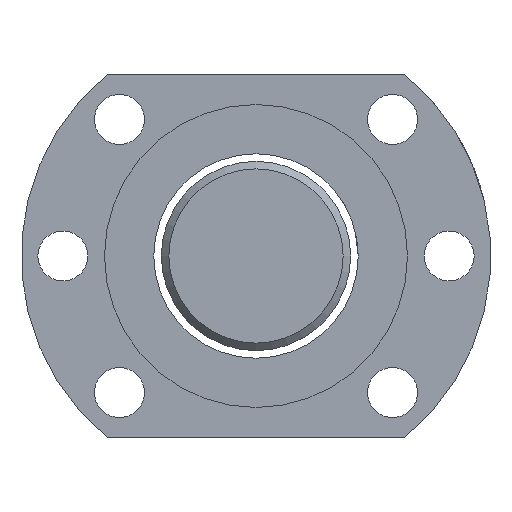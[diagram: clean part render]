
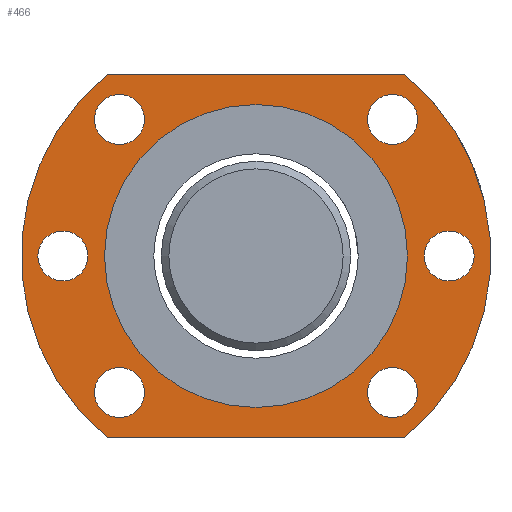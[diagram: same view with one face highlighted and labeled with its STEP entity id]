
A CAD part, left-side view. The second image highlights one B-rep face of the part: STEP entity #466.
In plain terms, the highlighted planar face has unit normal (-1, 0, 0).
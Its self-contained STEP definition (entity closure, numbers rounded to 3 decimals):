
#59=PLANE('',#544);
#76=LINE('',#799,#84);
#79=LINE('',#805,#87);
#84=VECTOR('',#636,1000.);
#87=VECTOR('',#641,1000.);
#128=ORIENTED_EDGE('',*,*,#205,.T.);
#129=ORIENTED_EDGE('',*,*,#209,.T.);
#130=ORIENTED_EDGE('',*,*,#211,.F.);
#131=ORIENTED_EDGE('',*,*,#213,.F.);
#132=ORIENTED_EDGE('',*,*,#215,.F.);
#133=ORIENTED_EDGE('',*,*,#222,.T.);
#134=ORIENTED_EDGE('',*,*,#219,.T.);
#135=ORIENTED_EDGE('',*,*,#190,.T.);
#136=ORIENTED_EDGE('',*,*,#216,.T.);
#137=ORIENTED_EDGE('',*,*,#224,.F.);
#138=ORIENTED_EDGE('',*,*,#207,.T.);
#190=EDGE_CURVE('',#240,#241,#281,.T.);
#205=EDGE_CURVE('',#255,#255,#289,.T.);
#207=EDGE_CURVE('',#257,#257,#291,.T.);
#209=EDGE_CURVE('',#259,#259,#293,.T.);
#211=EDGE_CURVE('',#261,#261,#295,.T.);
#213=EDGE_CURVE('',#263,#263,#297,.T.);
#215=EDGE_CURVE('',#265,#265,#299,.T.);
#216=EDGE_CURVE('',#241,#266,#76,.T.);
#219=EDGE_CURVE('',#268,#240,#79,.T.);
#222=EDGE_CURVE('',#266,#268,#300,.T.);
#224=EDGE_CURVE('',#270,#270,#302,.T.);
#240=VERTEX_POINT('',#711);
#241=VERTEX_POINT('',#712);
#255=VERTEX_POINT('',#772);
#257=VERTEX_POINT('',#777);
#259=VERTEX_POINT('',#782);
#261=VERTEX_POINT('',#787);
#263=VERTEX_POINT('',#792);
#265=VERTEX_POINT('',#797);
#266=VERTEX_POINT('',#800);
#268=VERTEX_POINT('',#806);
#270=VERTEX_POINT('',#815);
#281=CIRCLE('',#512,31.);
#289=CIRCLE('',#523,3.3);
#291=CIRCLE('',#526,3.3);
#293=CIRCLE('',#529,3.3);
#295=CIRCLE('',#532,3.3);
#297=CIRCLE('',#535,3.3);
#299=CIRCLE('',#538,3.3);
#300=CIRCLE('',#542,31.);
#302=CIRCLE('',#545,20.);
#334=EDGE_LOOP('',(#128));
#335=EDGE_LOOP('',(#129));
#336=EDGE_LOOP('',(#130));
#337=EDGE_LOOP('',(#131));
#338=EDGE_LOOP('',(#132));
#339=EDGE_LOOP('',(#133,#134,#135,#136));
#340=EDGE_LOOP('',(#137));
#341=EDGE_LOOP('',(#138));
#397=FACE_BOUND('',#334,.T.);
#398=FACE_BOUND('',#335,.T.);
#399=FACE_BOUND('',#336,.T.);
#400=FACE_BOUND('',#337,.T.);
#401=FACE_BOUND('',#338,.T.);
#402=FACE_BOUND('',#339,.T.);
#403=FACE_BOUND('',#340,.T.);
#404=FACE_BOUND('',#341,.T.);
#466=ADVANCED_FACE('',(#397,#398,#399,#400,#401,#402,#403,#404),#59,.T.);
#512=AXIS2_PLACEMENT_3D('',#710,#578,#579);
#523=AXIS2_PLACEMENT_3D('',#771,#602,#603);
#526=AXIS2_PLACEMENT_3D('',#776,#608,#609);
#529=AXIS2_PLACEMENT_3D('',#781,#614,#615);
#532=AXIS2_PLACEMENT_3D('',#786,#620,#621);
#535=AXIS2_PLACEMENT_3D('',#791,#626,#627);
#538=AXIS2_PLACEMENT_3D('',#796,#632,#633);
#542=AXIS2_PLACEMENT_3D('',#811,#646,#647);
#544=AXIS2_PLACEMENT_3D('',#813,#650,#651);
#545=AXIS2_PLACEMENT_3D('',#814,#652,#653);
#578=DIRECTION('',(-1.,0.,0.));
#579=DIRECTION('',(0.,0.,-1.));
#602=DIRECTION('',(1.,0.,0.));
#603=DIRECTION('',(0.,0.,1.));
#608=DIRECTION('',(1.,0.,0.));
#609=DIRECTION('',(0.,0.,1.));
#614=DIRECTION('',(1.,0.,0.));
#615=DIRECTION('',(0.,0.,1.));
#620=DIRECTION('',(-1.,0.,0.));
#621=DIRECTION('',(0.,0.,1.));
#626=DIRECTION('',(-1.,0.,0.));
#627=DIRECTION('',(0.,0.,1.));
#632=DIRECTION('',(-1.,0.,0.));
#633=DIRECTION('',(0.,0.,1.));
#636=DIRECTION('',(0.,1.,0.));
#641=DIRECTION('',(0.,-1.,0.));
#646=DIRECTION('',(-1.,0.,0.));
#647=DIRECTION('',(0.,0.,-1.));
#650=DIRECTION('',(-1.,0.,0.));
#651=DIRECTION('',(0.,0.,-1.));
#652=DIRECTION('',(-1.,0.,0.));
#653=DIRECTION('',(0.,0.,-1.));
#710=CARTESIAN_POINT('',(-20.086,-15.436,6.987));
#711=CARTESIAN_POINT('',(-20.086,-35.057,-17.013));
#712=CARTESIAN_POINT('',(-20.086,-35.057,30.987));
#771=CARTESIAN_POINT('',(-20.086,-33.467,25.018));
#772=CARTESIAN_POINT('',(-20.086,-33.467,28.318));
#776=CARTESIAN_POINT('',(-20.086,-40.936,6.987));
#777=CARTESIAN_POINT('',(-20.086,-40.936,10.287));
#781=CARTESIAN_POINT('',(-20.086,-33.467,-11.044));
#782=CARTESIAN_POINT('',(-20.086,-33.467,-7.744));
#786=CARTESIAN_POINT('',(-20.086,2.595,-11.044));
#787=CARTESIAN_POINT('',(-20.086,2.595,-7.744));
#791=CARTESIAN_POINT('',(-20.086,2.595,25.018));
#792=CARTESIAN_POINT('',(-20.086,2.595,28.318));
#796=CARTESIAN_POINT('',(-20.086,10.064,6.987));
#797=CARTESIAN_POINT('',(-20.086,10.064,10.287));
#799=CARTESIAN_POINT('',(-20.086,-35.057,30.987));
#800=CARTESIAN_POINT('',(-20.086,4.185,30.987));
#805=CARTESIAN_POINT('',(-20.086,4.185,-17.013));
#806=CARTESIAN_POINT('',(-20.086,4.185,-17.013));
#811=CARTESIAN_POINT('',(-20.086,-15.436,6.987));
#813=CARTESIAN_POINT('',(-20.086,-15.436,6.987));
#814=CARTESIAN_POINT('',(-20.086,-15.436,6.987));
#815=CARTESIAN_POINT('',(-20.086,-15.436,-13.013));
